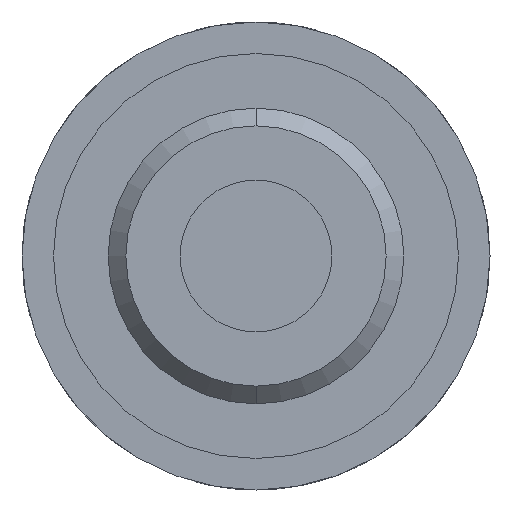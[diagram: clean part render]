
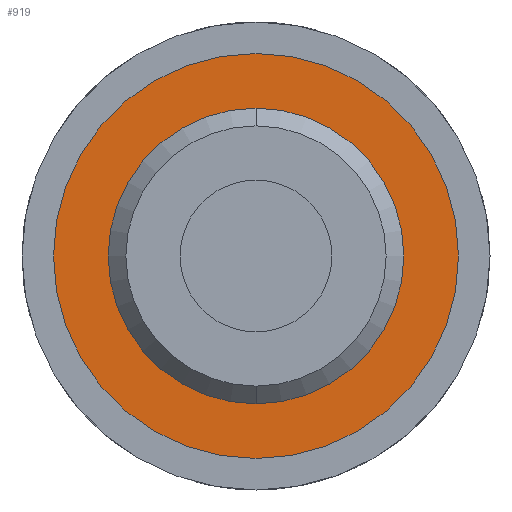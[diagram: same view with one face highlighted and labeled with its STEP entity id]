
A CAD part, front view. The second image highlights one B-rep face of the part: STEP entity #919.
In plain terms, the highlighted planar face has unit normal (0, -1, 0).
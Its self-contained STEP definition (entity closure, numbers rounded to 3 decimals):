
#73 = DIRECTION ( 'NONE',  ( 0., 0., 1. ) ) ;
#154 = AXIS2_PLACEMENT_3D ( 'NONE', #539, #1015, #73 ) ;
#174 = EDGE_CURVE ( 'NONE', #817, #1773, #1112, .T. ) ;
#223 = CARTESIAN_POINT ( 'NONE',  ( 0., -1., 0. ) ) ;
#308 = AXIS2_PLACEMENT_3D ( 'NONE', #1106, #724, #1916 ) ;
#323 = DIRECTION ( 'NONE',  ( 0., -1., 0. ) ) ;
#528 = FACE_OUTER_BOUND ( 'NONE', #2460, .T. ) ;
#539 = CARTESIAN_POINT ( 'NONE',  ( 0., -1., 0. ) ) ;
#560 = DIRECTION ( 'NONE',  ( 0., 1., 0. ) ) ;
#585 = DIRECTION ( 'NONE',  ( 0., 0., 1. ) ) ;
#637 = ORIENTED_EDGE ( 'NONE', *, *, #1496, .F. ) ;
#664 = CARTESIAN_POINT ( 'NONE',  ( 0., -1., -4.864 ) ) ;
#680 = EDGE_LOOP ( 'NONE', ( #1558, #978 ) ) ;
#699 = DIRECTION ( 'NONE',  ( 0., 0., 1. ) ) ;
#724 = DIRECTION ( 'NONE',  ( 0., -1., 0. ) ) ;
#777 = DIRECTION ( 'NONE',  ( 0., 0., 1. ) ) ;
#817 = VERTEX_POINT ( 'NONE', #1903 ) ;
#919 = ADVANCED_FACE ( 'NONE', ( #1782, #528 ), #1581, .F. ) ;
#978 = ORIENTED_EDGE ( 'NONE', *, *, #1251, .F. ) ;
#1015 = DIRECTION ( 'NONE',  ( 0., 1., 0. ) ) ;
#1106 = CARTESIAN_POINT ( 'NONE',  ( 0., -1., 0. ) ) ;
#1108 = EDGE_CURVE ( 'NONE', #3015, #1779, #2033, .T. ) ;
#1112 = CIRCLE ( 'NONE', #308, 4.864 ) ;
#1251 = EDGE_CURVE ( 'NONE', #1773, #817, #2722, .T. ) ;
#1496 = EDGE_CURVE ( 'NONE', #1779, #3015, #1738, .T. ) ;
#1558 = ORIENTED_EDGE ( 'NONE', *, *, #174, .F. ) ;
#1581 = PLANE ( 'NONE',  #2565 ) ;
#1726 = CARTESIAN_POINT ( 'NONE',  ( 0., -1., 0. ) ) ;
#1738 = CIRCLE ( 'NONE', #2663, 6.664 ) ;
#1773 = VERTEX_POINT ( 'NONE', #664 ) ;
#1779 = VERTEX_POINT ( 'NONE', #2076 ) ;
#1782 = FACE_BOUND ( 'NONE', #680, .T. ) ;
#1903 = CARTESIAN_POINT ( 'NONE',  ( 0., -1., 4.864 ) ) ;
#1916 = DIRECTION ( 'NONE',  ( 0., 0., 1. ) ) ;
#2033 = CIRCLE ( 'NONE', #154, 6.664 ) ;
#2046 = AXIS2_PLACEMENT_3D ( 'NONE', #1726, #323, #777 ) ;
#2076 = CARTESIAN_POINT ( 'NONE',  ( 0., -1., 6.664 ) ) ;
#2101 = CARTESIAN_POINT ( 'NONE',  ( 6.664, -1., 0. ) ) ;
#2241 = ORIENTED_EDGE ( 'NONE', *, *, #1108, .F. ) ;
#2255 = CARTESIAN_POINT ( 'NONE',  ( 0., -1., -6.664 ) ) ;
#2340 = DIRECTION ( 'NONE',  ( 0., 1., 0. ) ) ;
#2460 = EDGE_LOOP ( 'NONE', ( #637, #2241 ) ) ;
#2565 = AXIS2_PLACEMENT_3D ( 'NONE', #2101, #2340, #699 ) ;
#2663 = AXIS2_PLACEMENT_3D ( 'NONE', #223, #560, #585 ) ;
#2722 = CIRCLE ( 'NONE', #2046, 4.864 ) ;
#3015 = VERTEX_POINT ( 'NONE', #2255 ) ;
